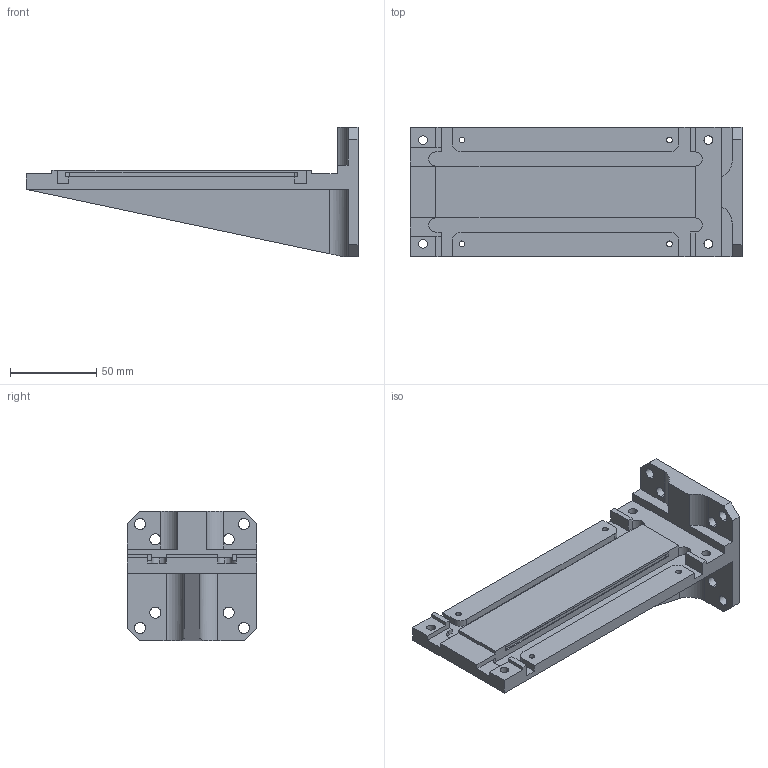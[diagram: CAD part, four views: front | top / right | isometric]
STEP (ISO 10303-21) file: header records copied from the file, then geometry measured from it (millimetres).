
FILE_DESCRIPTION (( 'STEP AP203' ), '1' );
FILE_NAME ('MVH7512-Motor-Vertikalhalter-lang.STEP', '2016-01-19T11:03:36', ( '' ), ( '' ), 'SwSTEP 2.0', 'SolidWorks 2014', '' );
FILE_SCHEMA (( 'CONFIG_CONTROL_DESIGN' ));
Length unit declared in the file: millimetre
Products named in the file (1): MVH7512-Motor-Vertikalhalter-lang
Bounding box: 192 x 75 x 75 mm (x, y, z)
Volume: 180265 mm3; surface area: 56196.2 mm2
Topology: 1 solids, 1 shells, 117 faces, 339 edges, 224 vertices
Faces by surface type: plane 67, cylinder 50
Entity records: 4014 total; most frequent: CARTESIAN_POINT 697, ORIENTED_EDGE 678, DIRECTION 673, EDGE_CURVE 339, LINE 233, VECTOR 233, VERTEX_POINT 224, AXIS2_PLACEMENT_3D 220
